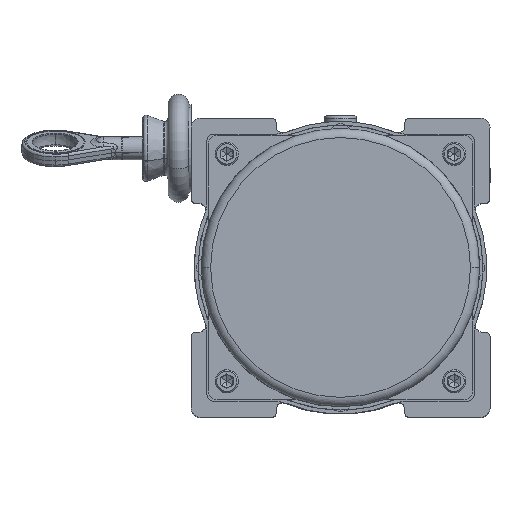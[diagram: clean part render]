
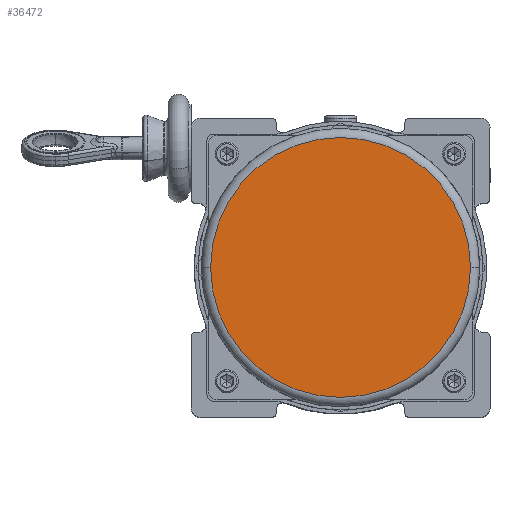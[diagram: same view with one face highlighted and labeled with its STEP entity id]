
A CAD part, top view. The second image highlights one B-rep face of the part: STEP entity #36472.
In plain terms, the highlighted planar face has unit normal (0, 0, 1).
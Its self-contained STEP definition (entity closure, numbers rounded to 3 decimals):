
#2256 = CARTESIAN_POINT ( 'NONE',  ( 103.5, 0., -48.85 ) ) ;
#2430 = AXIS2_PLACEMENT_3D ( 'NONE', #21629, #3593, #8601 ) ;
#3593 = DIRECTION ( 'NONE',  ( 0., 0., 1. ) ) ;
#4566 = EDGE_LOOP ( 'NONE', ( #36701, #71104 ) ) ;
#6072 = DIRECTION ( 'NONE',  ( 1., 0., 0. ) ) ;
#8601 = DIRECTION ( 'NONE',  ( 1., 0., 0. ) ) ;
#9444 = CARTESIAN_POINT ( 'NONE',  ( 216.5, 0., -48.85 ) ) ;
#18673 = CARTESIAN_POINT ( 'NONE',  ( 160., 0., -48.85 ) ) ;
#19334 = AXIS2_PLACEMENT_3D ( 'NONE', #36384, #59796, #6072 ) ;
#19406 = DIRECTION ( 'NONE',  ( 1., 0., 0. ) ) ;
#21629 = CARTESIAN_POINT ( 'NONE',  ( 160., 0., -48.85 ) ) ;
#24524 = CIRCLE ( 'NONE', #2430, 56.5 ) ;
#26136 = VERTEX_POINT ( 'NONE', #9444 ) ;
#36384 = CARTESIAN_POINT ( 'NONE',  ( 160., 0., -48.85 ) ) ;
#36472 = ADVANCED_FACE ( 'NONE', ( #65488 ), #36678, .T. ) ;
#36678 = PLANE ( 'NONE',  #72585 ) ;
#36701 = ORIENTED_EDGE ( 'NONE', *, *, #46681, .T. ) ;
#37729 = VERTEX_POINT ( 'NONE', #2256 ) ;
#42079 = DIRECTION ( 'NONE',  ( 0., 0., 1. ) ) ;
#46681 = EDGE_CURVE ( 'NONE', #26136, #37729, #56081, .T. ) ;
#56081 = CIRCLE ( 'NONE', #19334, 56.5 ) ;
#59796 = DIRECTION ( 'NONE',  ( 0., 0., 1. ) ) ;
#64273 = EDGE_CURVE ( 'NONE', #37729, #26136, #24524, .T. ) ;
#65488 = FACE_OUTER_BOUND ( 'NONE', #4566, .T. ) ;
#71104 = ORIENTED_EDGE ( 'NONE', *, *, #64273, .T. ) ;
#72585 = AXIS2_PLACEMENT_3D ( 'NONE', #18673, #42079, #19406 ) ;
